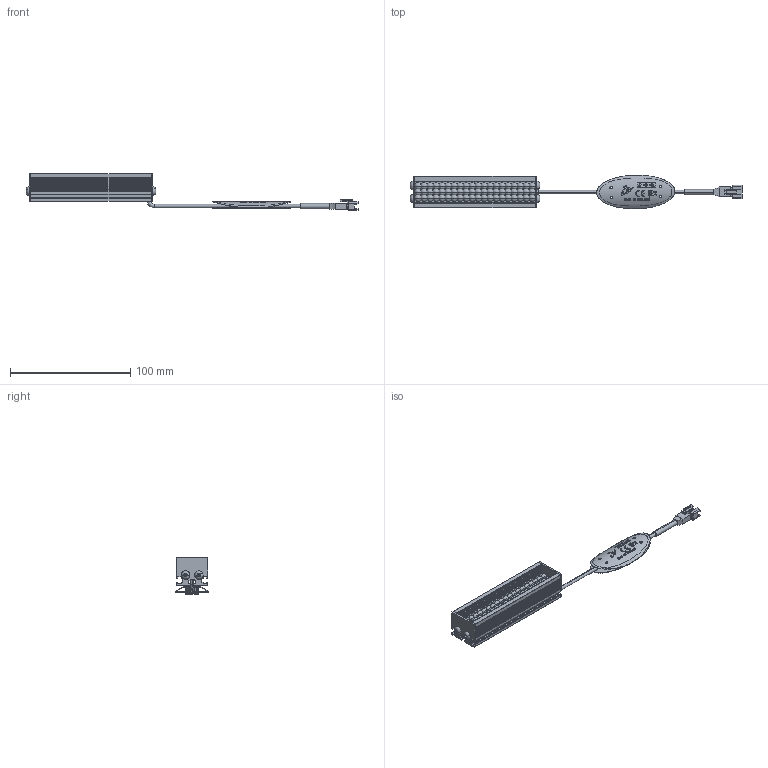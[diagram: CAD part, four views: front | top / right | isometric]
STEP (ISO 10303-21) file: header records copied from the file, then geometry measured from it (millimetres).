
FILE_DESCRIPTION(('STEP AP214'),'1');
FILE_NAME('VBA-10015_DRAWING_3D.step','2023-09-14T00:52:34',(' '),(' '),'Spatial InterOp 3D',' ',' ');
FILE_SCHEMA(('AUTOMOTIVE_DESIGN { 1 0 10303 214 1 1 1 1 }'));
Length unit declared in the file: millimetre
Products named in the file (7): BASE; SIDE PLATE; MXB8146; 3P; CABEL TAG (VS).stp; LED LENS
Assembly tree (11 placements, depth 2):
  (unnamed)
    BASE
    SIDE PLATE  x2
    MXB8146  x4
    3P
    CABEL TAG (VS).stp
    LED LENS  x2
Bounding box: 276 x 28 x 30.5 mm (x, y, z)
Volume: 33533.5 mm3; surface area: 40477.2 mm2
Topology: 12 solids, 12 shells, 1025 faces, 3194 edges, 2249 vertices
Faces by surface type: plane 529, cylinder 356, sphere 120, torus 14, bspline 6
Entity records: 37366 total; most frequent: CARTESIAN_POINT 8807, ORIENTED_EDGE 4924, DIRECTION 4436, EDGE_CURVE 2462, VERTEX_POINT 1760, AXIS2_PLACEMENT_3D 1555, LINE 1326, VECTOR 1326
